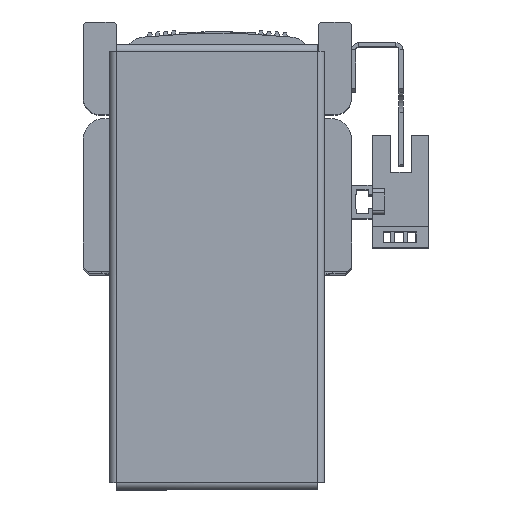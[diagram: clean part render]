
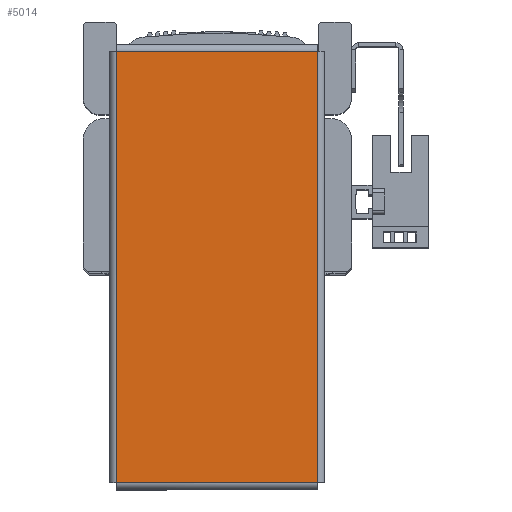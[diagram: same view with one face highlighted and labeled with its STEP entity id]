
A CAD part, top view. The second image highlights one B-rep face of the part: STEP entity #5014.
In plain terms, the highlighted planar face has unit normal (0, 0, 1) as drawn and (0, 0, -1) by its records, which use the part's own axes.
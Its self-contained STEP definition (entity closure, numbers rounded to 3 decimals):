
#5014 = ADVANCED_FACE ( 'NONE', ( #29859 ), #29360, .F. ) ;
#7994 = CARTESIAN_POINT ( 'NONE',  ( 52.263, 24.363, -1. ) ) ;
#8026 = CARTESIAN_POINT ( 'NONE',  ( -52.263, -24.363, -1. ) ) ;
#8039 = CARTESIAN_POINT ( 'NONE',  ( -52.263, 24.363, -1. ) ) ;
#8050 = CARTESIAN_POINT ( 'NONE',  ( 52.263, -24.363, -1. ) ) ;
#10196 = EDGE_CURVE ( 'NONE', #17075, #17033, #36010, .T. ) ;
#10203 = EDGE_CURVE ( 'NONE', #17078, #17077, #36081, .T. ) ;
#10204 = EDGE_CURVE ( 'NONE', #17077, #17075, #36060, .T. ) ;
#10209 = EDGE_CURVE ( 'NONE', #17033, #17078, #36058, .T. ) ;
#12940 = EDGE_LOOP ( 'NONE', ( #13823, #13862, #13828, #13789 ) ) ;
#13789 = ORIENTED_EDGE ( 'NONE', *, *, #10196, .T. ) ;
#13823 = ORIENTED_EDGE ( 'NONE', *, *, #10209, .T. ) ;
#13828 = ORIENTED_EDGE ( 'NONE', *, *, #10204, .T. ) ;
#13862 = ORIENTED_EDGE ( 'NONE', *, *, #10203, .T. ) ;
#14935 = AXIS2_PLACEMENT_3D ( 'NONE', #29378, #29354, #29380 ) ;
#17033 = VERTEX_POINT ( 'NONE', #7994 ) ;
#17075 = VERTEX_POINT ( 'NONE', #8039 ) ;
#17077 = VERTEX_POINT ( 'NONE', #8026 ) ;
#17078 = VERTEX_POINT ( 'NONE', #8050 ) ;
#29354 = DIRECTION ( 'NONE',  ( 0., 0., 1. ) ) ;
#29360 = PLANE ( 'NONE',  #14935 ) ;
#29378 = CARTESIAN_POINT ( 'NONE',  ( 0., 0., -1. ) ) ;
#29380 = DIRECTION ( 'NONE',  ( 1., 0., 0. ) ) ;
#29859 = FACE_OUTER_BOUND ( 'NONE', #12940, .T. ) ;
#36010 = LINE ( 'NONE', #36845, #36025 ) ;
#36025 = VECTOR ( 'NONE', #36820, 1000. ) ;
#36058 = LINE ( 'NONE', #36865, #36062 ) ;
#36060 = LINE ( 'NONE', #36877, #36064 ) ;
#36062 = VECTOR ( 'NONE', #36872, 1000. ) ;
#36064 = VECTOR ( 'NONE', #36869, 1000. ) ;
#36081 = LINE ( 'NONE', #36875, #36089 ) ;
#36089 = VECTOR ( 'NONE', #36899, 1000. ) ;
#36820 = DIRECTION ( 'NONE',  ( 1., 0., 0. ) ) ;
#36845 = CARTESIAN_POINT ( 'NONE',  ( -52.293, 24.363, -1. ) ) ;
#36865 = CARTESIAN_POINT ( 'NONE',  ( 52.263, 24.393, -1. ) ) ;
#36869 = DIRECTION ( 'NONE',  ( 0., 1., 0. ) ) ;
#36872 = DIRECTION ( 'NONE',  ( 0., -1., 0. ) ) ;
#36875 = CARTESIAN_POINT ( 'NONE',  ( 52.293, -24.363, -1. ) ) ;
#36877 = CARTESIAN_POINT ( 'NONE',  ( -52.263, -24.393, -1. ) ) ;
#36899 = DIRECTION ( 'NONE',  ( -1., 0., 0. ) ) ;
